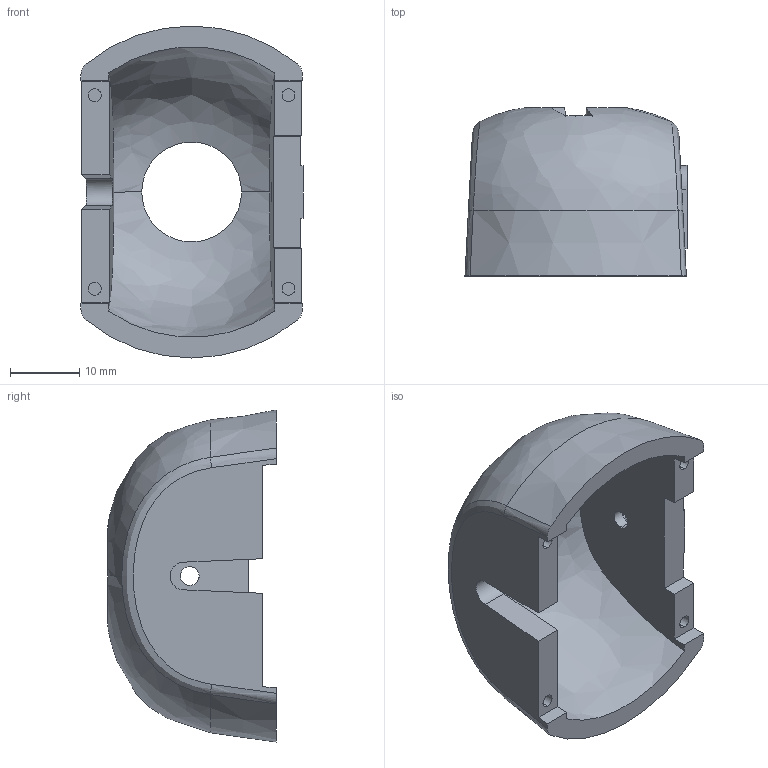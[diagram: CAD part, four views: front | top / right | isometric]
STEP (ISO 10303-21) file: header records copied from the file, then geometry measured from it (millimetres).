
FILE_DESCRIPTION (( 'STEP AP214' ), '1' );
FILE_NAME ('CAMTILT-P-LOW-LIGHT-HD-USB-R7.STEP', '2018-06-21T18:54:00', ( '' ), ( '' ), 'SwSTEP 2.0', 'SolidWorks 2016', '' );
FILE_SCHEMA (( 'AUTOMOTIVE_DESIGN' ));
Length unit declared in the file: millimetre
Products named in the file (1): CAMTILT-P-LOW-LIGHT-HD-USB-R7
Bounding box: 32.1 x 24.36 x 48 mm (x, y, z)
Volume: 9758.1 mm3; surface area: 6669.7 mm2
Topology: 1 solids, 1 shells, 94 faces, 263 edges, 174 vertices
Faces by surface type: plane 57, bspline 16, cylinder 12, cone 9
Entity records: 4025 total; most frequent: CARTESIAN_POINT 1692, ORIENTED_EDGE 526, DIRECTION 409, EDGE_CURVE 263, VERTEX_POINT 174, VECTOR 165, LINE 165, AXIS2_PLACEMENT_3D 122
